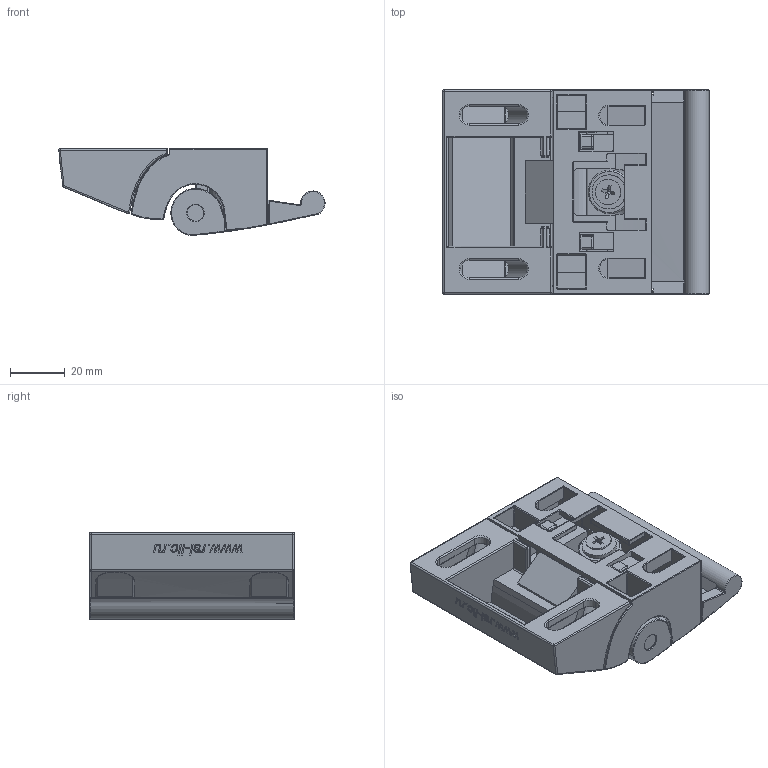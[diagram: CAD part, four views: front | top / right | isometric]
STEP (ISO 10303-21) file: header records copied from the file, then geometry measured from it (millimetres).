
FILE_DESCRIPTION (( 'STEP AP214' ), '1' );
FILE_NAME ('399.0101A.01.STEP', '2020-08-18T09:17:35', ( '' ), ( '' ), 'SwSTEP 2.0', 'SolidWorks 2018', '' );
FILE_SCHEMA (( 'AUTOMOTIVE_DESIGN' ));
Length unit declared in the file: millimetre
Products named in the file (1): 399.0101A.01
Bounding box: 97.66 x 75 x 31.8 mm (x, y, z)
Volume: 66381.9 mm3; surface area: 55700.5 mm2
Topology: 14 solids, 14 shells, 1053 faces, 2672 edges, 1619 vertices
Faces by surface type: plane 454, cylinder 261, bspline 191, torus 89, sphere 50, cone 8
Entity records: 51524 total; most frequent: CARTESIAN_POINT 15970, ORIENTED_EDGE 5240, DIRECTION 4455, EDGE_CURVE 2620, VERTEX_POINT 1619, VECTOR 1539, LINE 1539, AXIS2_PLACEMENT_3D 1458
